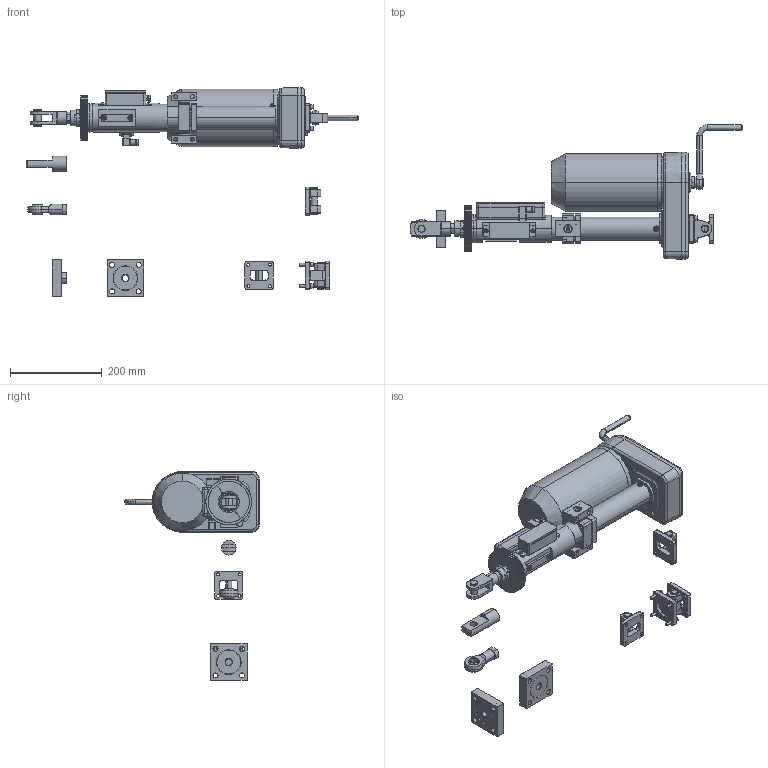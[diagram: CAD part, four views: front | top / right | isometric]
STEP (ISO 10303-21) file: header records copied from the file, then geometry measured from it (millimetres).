
FILE_DESCRIPTION (( 'STEP AP203' ), '1' );
FILE_NAME ('旆1 200.STEP', '2016-12-15T06:44:16', ( '' ), ( '' ), 'SwSTEP 2.0', 'SolidWorks 2012', '' );
FILE_SCHEMA (( 'CONFIG_CONTROL_DESIGN' ));
Length unit declared in the file: millimetre
Products named in the file (21): 旆1 200; ﾒ矜; 憵儴樇罻; ãàéêà äâîéíàÿ; 濱皸 ｢粤ｫｪｮｩ; 苂; ﾍ瑕 ﾑ1; Âòóëêà ñ ÄÂ; 笭; 抌暊; 俵; 眧; 畟; 眐; Ãîôð ñ1 200; 邴; ÍÔ_Œ16å1.5; îñü ôëàíöà_Œ16å1.5; 鐏鳧氀 縺膰翴籦鴀趌80; 迕_063; 迍_TI D50
Assembly tree (21 placements, depth 3):
  旆1 200
    迍_TI D50
    迕_063
    ÍÔ_Œ16å1.5
      鐏鳧氀 縺膰翴籦鴀趌80
      îñü ôëàíöà_Œ16å1.5
    邴
    Ãîôð ñ1 200
    眐
    畟  x2
    眧
    俵
    抌暊
    笭
    Âòóëêà ñ ÄÂ
    ﾍ瑕 ﾑ1
    苂
    ﾒ矜
      濱皸 ｢粤ｫｪｮｩ
      ãàéêà äâîéíàÿ
      憵儴樇罻
Bounding box: 725 x 293.4 x 456.4 mm (x, y, z)
Volume: 444382 mm3; surface area: 826389.5 mm2
Topology: 10 solids, 150 shells, 2100 faces, 5667 edges, 3827 vertices
Faces by surface type: cylinder 880, plane 793, cone 232, torus 132, bspline 42, sphere 21
Entity records: 67158 total; most frequent: CARTESIAN_POINT 15204, DIRECTION 11164, ORIENTED_EDGE 9276, EDGE_CURVE 5237, AXIS2_PLACEMENT_3D 4466, VERTEX_POINT 3552, CIRCLE 2525, EDGE_LOOP 2330
